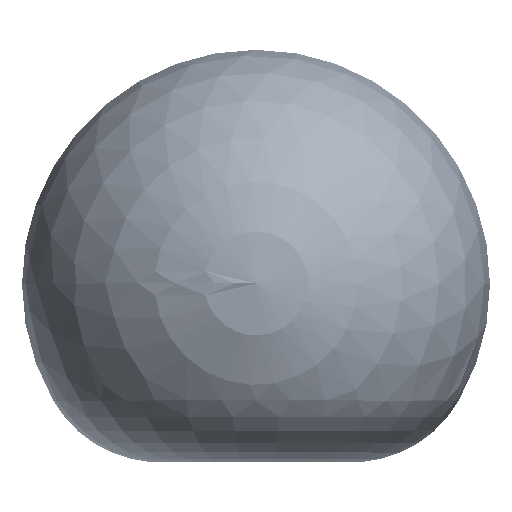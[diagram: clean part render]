
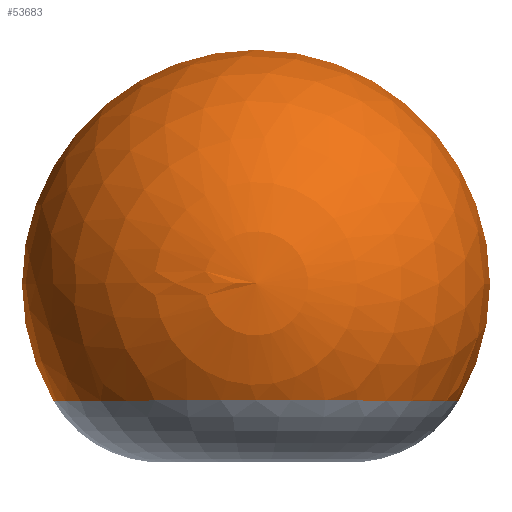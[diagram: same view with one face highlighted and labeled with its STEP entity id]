
A CAD part, top view. The second image highlights one B-rep face of the part: STEP entity #53683.
In plain terms, the highlighted spherical face has radius 570 mm.
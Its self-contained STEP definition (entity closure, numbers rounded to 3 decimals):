
#29348 = DIRECTION ( 'NONE',  ( -1., 0., 0. ) ) ;
#30299 = ORIENTED_EDGE ( 'NONE', *, *, #125590, .T. ) ;
#31886 = VERTEX_POINT ( 'NONE', #41249 ) ;
#33074 = CARTESIAN_POINT ( 'NONE',  ( 0., 0., 0. ) ) ;
#35575 = CIRCLE ( 'NONE', #170985, 570. ) ;
#41249 = CARTESIAN_POINT ( 'NONE',  ( 0., 570., 0. ) ) ;
#43920 = VERTEX_POINT ( 'NONE', #158408 ) ;
#48678 = CARTESIAN_POINT ( 'NONE',  ( 0., 0., 0. ) ) ;
#53343 = AXIS2_PLACEMENT_3D ( 'NONE', #33074, #150774, #85003 ) ;
#53683 = ADVANCED_FACE ( 'NONE', ( #124791 ), #97986, .T. ) ;
#54440 = CARTESIAN_POINT ( 'NONE',  ( 0., -285., 0. ) ) ;
#55285 = DIRECTION ( 'NONE',  ( 0., 1., 0. ) ) ;
#64325 = VERTEX_POINT ( 'NONE', #154078 ) ;
#67812 = ORIENTED_EDGE ( 'NONE', *, *, #143757, .F. ) ;
#68524 = DIRECTION ( 'NONE',  ( -1., 0., 0. ) ) ;
#70708 = EDGE_LOOP ( 'NONE', ( #30299, #168028, #67812 ) ) ;
#74669 = DIRECTION ( 'NONE',  ( 0., 0., 1. ) ) ;
#85003 = DIRECTION ( 'NONE',  ( 1., 0., 0. ) ) ;
#97986 = SPHERICAL_SURFACE ( 'NONE', #53343, 570. ) ;
#105494 = AXIS2_PLACEMENT_3D ( 'NONE', #54440, #55285, #29348 ) ;
#106645 = DIRECTION ( 'NONE',  ( 0., 0., -1. ) ) ;
#118761 = CARTESIAN_POINT ( 'NONE',  ( 0., 0., 0. ) ) ;
#122148 = CIRCLE ( 'NONE', #152527, 570. ) ;
#124791 = FACE_OUTER_BOUND ( 'NONE', #70708, .T. ) ;
#125590 = EDGE_CURVE ( 'NONE', #64325, #43920, #135887, .T. ) ;
#135887 = CIRCLE ( 'NONE', #105494, 493.634 ) ;
#142131 = DIRECTION ( 'NONE',  ( 1., 0., 0. ) ) ;
#143757 = EDGE_CURVE ( 'NONE', #64325, #31886, #35575, .T. ) ;
#150774 = DIRECTION ( 'NONE',  ( 0., 0., -1. ) ) ;
#152527 = AXIS2_PLACEMENT_3D ( 'NONE', #118761, #106645, #68524 ) ;
#154078 = CARTESIAN_POINT ( 'NONE',  ( 493.634, -285., 0. ) ) ;
#158408 = CARTESIAN_POINT ( 'NONE',  ( -493.634, -285., 0. ) ) ;
#160699 = EDGE_CURVE ( 'NONE', #43920, #31886, #122148, .T. ) ;
#168028 = ORIENTED_EDGE ( 'NONE', *, *, #160699, .T. ) ;
#170985 = AXIS2_PLACEMENT_3D ( 'NONE', #48678, #74669, #142131 ) ;
